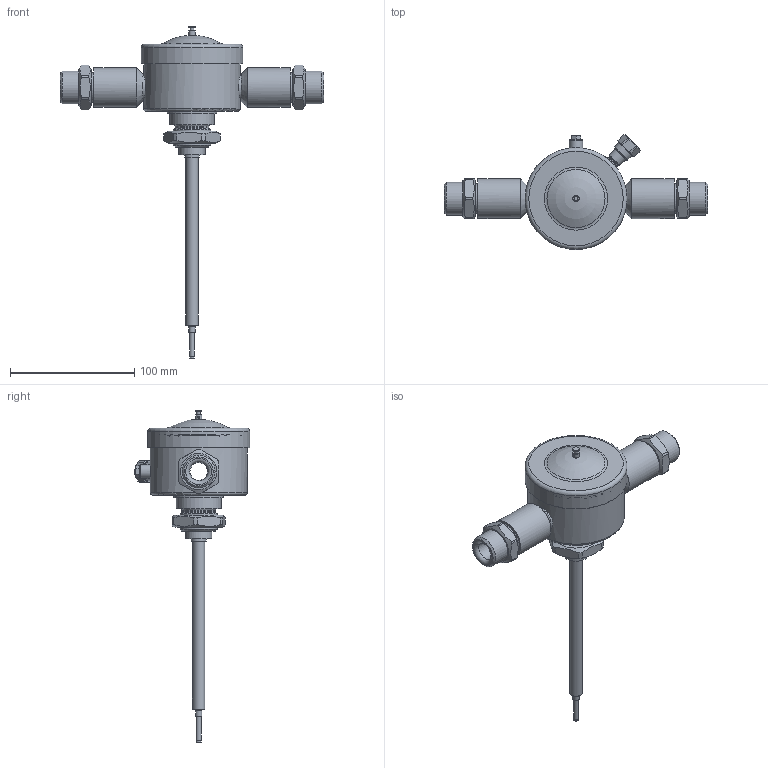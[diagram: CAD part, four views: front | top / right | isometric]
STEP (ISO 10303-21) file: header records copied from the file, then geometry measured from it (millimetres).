
FILE_DESCRIPTION(('STEP AP203'), '1');
FILE_NAME('908.2244.00.000 ﾑﾁ-ﾍ', '', ('UNSPECIFIED'), ('UNSPECIFIED'), 'ASCON STEP Converter 1.6', 'ASCON Math Kernel', '');
FILE_SCHEMA(('CONFIG_CONTROL_DESIGN'));
Length unit declared in the file: millimetre
Products named in the file (16): 瓽抸.301264.003; 瓽抸.725137.003; 瓽抸.713612.001; 908.3050.00.000; 908.3050.00.004; 1_Substitute_1; 908.2013.00.012-02 Штуцер; 908.2242.00.003 Гайка; Шайба 5.32ЛС59-1.
136 ГОСТ 11371-78
Assembly tree (20 placements, depth 3):
  (unnamed)
    (unnamed)
    (unnamed)  x2
    (unnamed)
    瓽抸.301264.003
      瓽抸.725137.003
      瓽抸.713612.001
    908.3050.00.000  x2
      (unnamed)
      (unnamed)
      908.3050.00.004
    1_Substitute_1
    908.2013.00.012-02 Штуцер  x2
    908.2242.00.003 Гайка
    Шайба 5.32ЛС59-1.
136 ГОСТ 11371-78
    (unnamed)
Bounding box: 212 x 92.71 x 267.1 mm (x, y, z)
Volume: 170158.5 mm3; surface area: 108878.1 mm2
Topology: 15 solids, 15 shells, 279 faces, 657 edges, 450 vertices
Faces by surface type: plane 107, cylinder 101, cone 47, torus 22, sphere 2
Full cylindrical faces by diameter (mm): 1.5 x1, 3 x3, 3.2 x1, 3.8 x1, 4 x2, 4.459 x1, 5 x5, 5.3 x1, 6 x1, 6.5 x1, 8 x1, 9.8 x1, 10 x3, 10.376 x1, 11 x1, 12 x2, 12.7 x1, 14 x2, 14.376 x1, 15 x6, 16 x1, 20.5 x2, 21 x1, 21.9 x2, 22 x2, 24 x4, 24.8 x2, 24.835 x2, 24.9 x2, 26.39 x2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
Entity records: 10885 total; most frequent: CARTESIAN_POINT 3129, DIRECTION 1130, ORIENTED_EDGE 832, AXIS2_PLACEMENT_3D 539, EDGE_CURVE 416, EDGE_LOOP 400, VERTEX_POINT 364, CIRCLE 292
